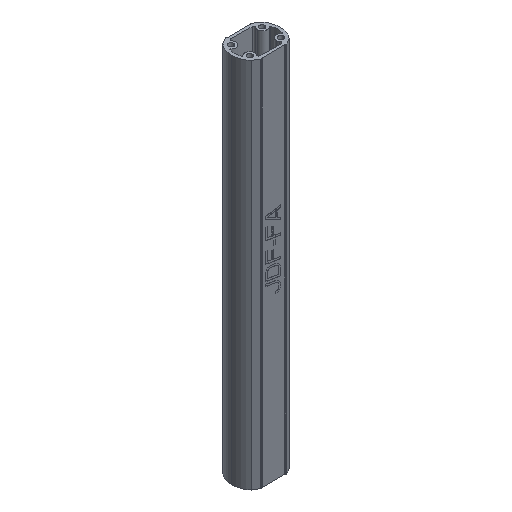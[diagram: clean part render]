
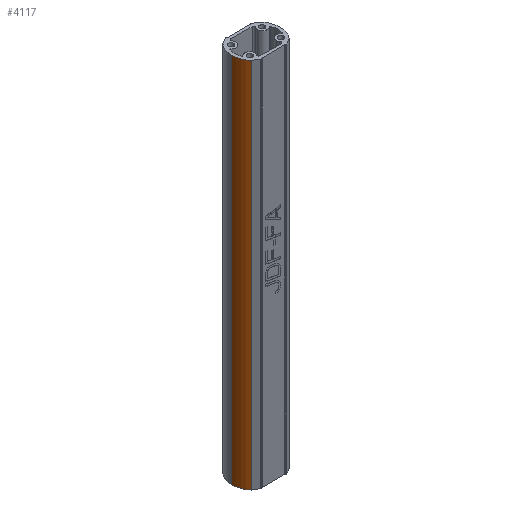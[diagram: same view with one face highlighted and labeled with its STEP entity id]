
A CAD part, isometric view. The second image highlights one B-rep face of the part: STEP entity #4117.
In plain terms, the highlighted cylindrical face has radius 30 mm (diameter 60 mm), a partial arc.
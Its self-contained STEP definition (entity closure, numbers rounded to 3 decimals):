
#1272=CARTESIAN_POINT('',(427.578,776.194,0.));
#1273=DIRECTION('',(0.,0.,-1.));
#1274=DIRECTION('',(-0.768,-0.64,0.));
#1275=AXIS2_PLACEMENT_3D('',#1272,#1273,#1274);
#1924=DIRECTION('',(0.,0.,1.));
#1925=VECTOR('',#1924,500.);
#1926=CARTESIAN_POINT('',(404.535,756.983,0.));
#1927=LINE('',#1926,#1925);
#2009=CARTESIAN_POINT('',(427.578,776.194,500.));
#2010=DIRECTION('',(0.,0.,1.));
#2011=DIRECTION('',(-1.,0.,0.));
#2012=AXIS2_PLACEMENT_3D('',#2009,#2010,#2011);
#2166=DIRECTION('',(0.,0.,1.));
#2167=VECTOR('',#2166,500.);
#2168=CARTESIAN_POINT('',(397.578,776.194,0.));
#2169=LINE('',#2168,#2167);
#3098=CARTESIAN_POINT('',(397.578,776.194,500.));
#3099=VERTEX_POINT('',#3098);
#3100=CARTESIAN_POINT('',(404.535,756.983,0.));
#3101=CARTESIAN_POINT('',(397.578,776.194,0.));
#3102=VERTEX_POINT('',#3100);
#3103=VERTEX_POINT('',#3101);
#3135=CARTESIAN_POINT('',(404.535,756.983,500.));
#3136=VERTEX_POINT('',#3135);
#4104=CARTESIAN_POINT('',(427.578,776.194,500.));
#4105=DIRECTION('',(0.,0.,-1.));
#4106=DIRECTION('',(-1.,0.,0.));
#4107=AXIS2_PLACEMENT_3D('',#4104,#4105,#4106);
#4108=CYLINDRICAL_SURFACE('',#4107,30.);
#4110=ORIENTED_EDGE('',*,*,#4109,.T.);
#4111=ORIENTED_EDGE('',*,*,#4096,.F.);
#4112=ORIENTED_EDGE('',*,*,#3531,.T.);
#4114=ORIENTED_EDGE('',*,*,#4113,.T.);
#4115=EDGE_LOOP('',(#4110,#4111,#4112,#4114));
#4116=FACE_OUTER_BOUND('',#4115,.F.);
#4117=ADVANCED_FACE('',(#4116),#4108,.T.);
#1276=CIRCLE('',#1275,30.);
#2013=CIRCLE('',#2012,30.);
#3531=EDGE_CURVE('',#3102,#3103,#1276,.T.);
#4096=EDGE_CURVE('',#3102,#3136,#1927,.T.);
#4109=EDGE_CURVE('',#3099,#3136,#2013,.T.);
#4113=EDGE_CURVE('',#3103,#3099,#2169,.T.);
